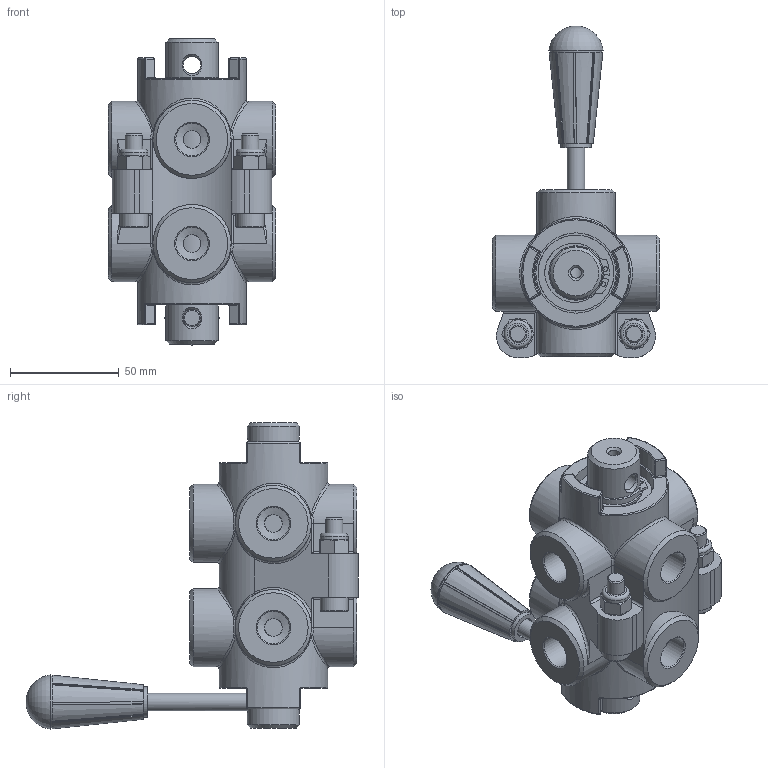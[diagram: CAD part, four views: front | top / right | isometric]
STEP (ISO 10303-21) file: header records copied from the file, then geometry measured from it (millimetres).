
FILE_DESCRIPTION(/* description */ ('Unknown'),/* implementation_level */ '2;1');
FILE_NAME(/* name */ 'INV4V38',/* time_stamp */ '2024-12-05T10:41:10+01:00',/* author */ ('Unknown'),/* organization */ ('Unknown'),/* preprocessor_version */ 'ST-DEVELOPER v19.4',/* originating_system */ 'Solid Edge',/* authorisation */ 'Unknown');
FILE_SCHEMA (('AUTOMOTIVE_DESIGN {1 0 10303 214 3 1 1}'));
Length unit declared in the file: millimetre
Products named in the file (1): INV4V38
Bounding box: 77 x 152.96 x 141.08 mm (x, y, z)
Volume: 355265.6 mm3; surface area: 67744.2 mm2
Topology: 2 solids, 2 shells, 465 faces, 1127 edges, 680 vertices
Faces by surface type: plane 166, cylinder 147, cone 58, torus 34, bspline 34, sphere 26
Full cylindrical faces by diameter (mm): 2.1 x4, 4.917 x2, 7.992 x1, 8 x4, 8.05 x2, 8.2 x8, 8.5 x2, 9.491 x1, 12.8 x2, 13 x2, 13.986 x1, 14 x4, 14.95 x16, 23.4 x2, 24 x2, 25 x2, 26 x4, 35 x2, 35.048 x4, 36 x2, 37 x2, 50 x2
Entity records: 16377 total; most frequent: CARTESIAN_POINT 3804, DIRECTION 2052, ORIENTED_EDGE 1804, EDGE_CURVE 902, AXIS2_PLACEMENT_3D 869, EDGE_LOOP 652, FACE_BOUND 652, VERTEX_POINT 602
